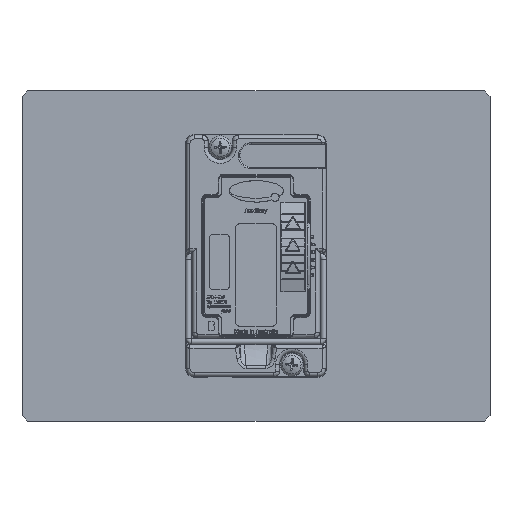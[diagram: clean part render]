
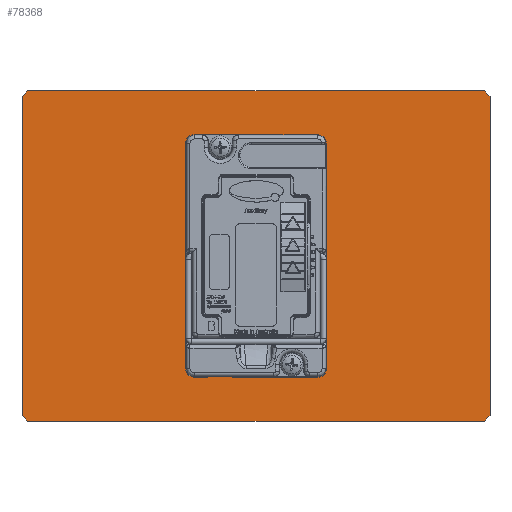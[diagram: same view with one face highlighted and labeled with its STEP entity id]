
A CAD part, top view. The second image highlights one B-rep face of the part: STEP entity #78368.
In plain terms, the highlighted planar face has unit normal (0, 0, 1).
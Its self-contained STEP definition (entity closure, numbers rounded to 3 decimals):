
#465=FACE_BOUND('',#9421,.T.);
#3016=CIRCLE('',#83042,5.);
#3017=CIRCLE('',#83043,5.);
#5313=FACE_OUTER_BOUND('',#9420,.T.);
#9420=EDGE_LOOP('',(#52014,#52015,#52016,#52017,#52018,#52019,#52020,#52021));
#9421=EDGE_LOOP('',(#52022,#52023,#52024,#52025,#52026,#52027,#52028,#52029,
#52030,#52031,#52032,#52033,#52034,#52035,#52036,#52037));
#15597=LINE('',#113585,#23336);
#15598=LINE('',#113587,#23337);
#15599=LINE('',#113589,#23338);
#15600=LINE('',#113591,#23339);
#15601=LINE('',#113593,#23340);
#15602=LINE('',#113595,#23341);
#15603=LINE('',#113597,#23342);
#15604=LINE('',#113598,#23343);
#15605=LINE('',#113601,#23344);
#15606=LINE('',#113603,#23345);
#15607=LINE('',#113605,#23346);
#15608=LINE('',#113609,#23347);
#15609=LINE('',#113611,#23348);
#15610=LINE('',#113613,#23349);
#15611=LINE('',#113615,#23350);
#15612=LINE('',#113617,#23351);
#15613=LINE('',#113619,#23352);
#15614=LINE('',#113621,#23353);
#15615=LINE('',#113625,#23354);
#15616=LINE('',#113627,#23355);
#15617=LINE('',#113629,#23356);
#15618=LINE('',#113630,#23357);
#23336=VECTOR('',#91452,10.);
#23337=VECTOR('',#91453,10.);
#23338=VECTOR('',#91454,10.);
#23339=VECTOR('',#91455,10.);
#23340=VECTOR('',#91456,10.);
#23341=VECTOR('',#91457,10.);
#23342=VECTOR('',#91458,10.);
#23343=VECTOR('',#91459,10.);
#23344=VECTOR('',#91460,10.);
#23345=VECTOR('',#91461,10.);
#23346=VECTOR('',#91462,10.);
#23347=VECTOR('',#91465,10.);
#23348=VECTOR('',#91466,10.);
#23349=VECTOR('',#91467,10.);
#23350=VECTOR('',#91468,10.);
#23351=VECTOR('',#91469,10.);
#23352=VECTOR('',#91470,10.);
#23353=VECTOR('',#91471,10.);
#23354=VECTOR('',#91474,10.);
#23355=VECTOR('',#91475,10.);
#23356=VECTOR('',#91476,10.);
#23357=VECTOR('',#91477,10.);
#31204=VERTEX_POINT('',#113583);
#31205=VERTEX_POINT('',#113584);
#31206=VERTEX_POINT('',#113586);
#31207=VERTEX_POINT('',#113588);
#31208=VERTEX_POINT('',#113590);
#31209=VERTEX_POINT('',#113592);
#31210=VERTEX_POINT('',#113594);
#31211=VERTEX_POINT('',#113596);
#31212=VERTEX_POINT('',#113599);
#31213=VERTEX_POINT('',#113600);
#31214=VERTEX_POINT('',#113602);
#31215=VERTEX_POINT('',#113604);
#31216=VERTEX_POINT('',#113606);
#31217=VERTEX_POINT('',#113608);
#31218=VERTEX_POINT('',#113610);
#31219=VERTEX_POINT('',#113612);
#31220=VERTEX_POINT('',#113614);
#31221=VERTEX_POINT('',#113616);
#31222=VERTEX_POINT('',#113618);
#31223=VERTEX_POINT('',#113620);
#31224=VERTEX_POINT('',#113622);
#31225=VERTEX_POINT('',#113624);
#31226=VERTEX_POINT('',#113626);
#31227=VERTEX_POINT('',#113628);
#39247=EDGE_CURVE('',#31204,#31205,#15597,.T.);
#39248=EDGE_CURVE('',#31204,#31206,#15598,.T.);
#39249=EDGE_CURVE('',#31207,#31206,#15599,.T.);
#39250=EDGE_CURVE('',#31207,#31208,#15600,.T.);
#39251=EDGE_CURVE('',#31209,#31208,#15601,.T.);
#39252=EDGE_CURVE('',#31209,#31210,#15602,.T.);
#39253=EDGE_CURVE('',#31211,#31210,#15603,.T.);
#39254=EDGE_CURVE('',#31211,#31205,#15604,.T.);
#39255=EDGE_CURVE('',#31212,#31213,#15605,.T.);
#39256=EDGE_CURVE('',#31213,#31214,#15606,.T.);
#39257=EDGE_CURVE('',#31214,#31215,#15607,.T.);
#39258=EDGE_CURVE('',#31215,#31216,#3016,.T.);
#39259=EDGE_CURVE('',#31216,#31217,#15608,.T.);
#39260=EDGE_CURVE('',#31217,#31218,#15609,.T.);
#39261=EDGE_CURVE('',#31218,#31219,#15610,.T.);
#39262=EDGE_CURVE('',#31219,#31220,#15611,.T.);
#39263=EDGE_CURVE('',#31220,#31221,#15612,.T.);
#39264=EDGE_CURVE('',#31221,#31222,#15613,.T.);
#39265=EDGE_CURVE('',#31222,#31223,#15614,.T.);
#39266=EDGE_CURVE('',#31223,#31224,#3017,.T.);
#39267=EDGE_CURVE('',#31224,#31225,#15615,.T.);
#39268=EDGE_CURVE('',#31225,#31226,#15616,.T.);
#39269=EDGE_CURVE('',#31226,#31227,#15617,.T.);
#39270=EDGE_CURVE('',#31227,#31212,#15618,.T.);
#52014=ORIENTED_EDGE('',*,*,#39247,.F.);
#52015=ORIENTED_EDGE('',*,*,#39248,.T.);
#52016=ORIENTED_EDGE('',*,*,#39249,.F.);
#52017=ORIENTED_EDGE('',*,*,#39250,.T.);
#52018=ORIENTED_EDGE('',*,*,#39251,.F.);
#52019=ORIENTED_EDGE('',*,*,#39252,.T.);
#52020=ORIENTED_EDGE('',*,*,#39253,.F.);
#52021=ORIENTED_EDGE('',*,*,#39254,.T.);
#52022=ORIENTED_EDGE('',*,*,#39255,.T.);
#52023=ORIENTED_EDGE('',*,*,#39256,.T.);
#52024=ORIENTED_EDGE('',*,*,#39257,.T.);
#52025=ORIENTED_EDGE('',*,*,#39258,.T.);
#52026=ORIENTED_EDGE('',*,*,#39259,.T.);
#52027=ORIENTED_EDGE('',*,*,#39260,.T.);
#52028=ORIENTED_EDGE('',*,*,#39261,.T.);
#52029=ORIENTED_EDGE('',*,*,#39262,.T.);
#52030=ORIENTED_EDGE('',*,*,#39263,.T.);
#52031=ORIENTED_EDGE('',*,*,#39264,.T.);
#52032=ORIENTED_EDGE('',*,*,#39265,.T.);
#52033=ORIENTED_EDGE('',*,*,#39266,.T.);
#52034=ORIENTED_EDGE('',*,*,#39267,.T.);
#52035=ORIENTED_EDGE('',*,*,#39268,.T.);
#52036=ORIENTED_EDGE('',*,*,#39269,.T.);
#52037=ORIENTED_EDGE('',*,*,#39270,.T.);
#71649=PLANE('',#83041);
#78368=ADVANCED_FACE('',(#5313,#465),#71649,.T.);
#83041=AXIS2_PLACEMENT_3D('',#113582,#91450,#91451);
#83042=AXIS2_PLACEMENT_3D('',#113607,#91463,#91464);
#83043=AXIS2_PLACEMENT_3D('',#113623,#91472,#91473);
#91450=DIRECTION('center_axis',(0.,0.,
1.));
#91451=DIRECTION('ref_axis',(1.,0.,0.));
#91452=DIRECTION('',(-0.707,0.707,0.));
#91453=DIRECTION('',(1.,0.,0.));
#91454=DIRECTION('',(-0.707,-0.707,0.));
#91455=DIRECTION('',(0.,1.,0.));
#91456=DIRECTION('',(0.707,-0.707,0.));
#91457=DIRECTION('',(-1.,0.,0.));
#91458=DIRECTION('',(0.707,0.707,0.));
#91459=DIRECTION('',(0.,-1.,0.));
#91460=DIRECTION('',(-0.707,-0.707,0.));
#91461=DIRECTION('',(-1.,0.,0.));
#91462=DIRECTION('',(0.,1.,0.));
#91463=DIRECTION('center_axis',(0.,0.,
1.));
#91464=DIRECTION('ref_axis',(-1.,0.,0.));
#91465=DIRECTION('',(0.,-1.,0.));
#91466=DIRECTION('',(-1.,0.,0.));
#91467=DIRECTION('',(-0.707,0.707,0.));
#91468=DIRECTION('',(0.,1.,0.));
#91469=DIRECTION('',(0.707,0.707,0.));
#91470=DIRECTION('',(1.,0.,0.));
#91471=DIRECTION('',(0.,-1.,0.));
#91472=DIRECTION('center_axis',(0.,0.,
1.));
#91473=DIRECTION('ref_axis',(1.,0.,0.));
#91474=DIRECTION('',(0.,1.,0.));
#91475=DIRECTION('',(1.,0.,0.));
#91476=DIRECTION('',(0.707,-0.707,0.));
#91477=DIRECTION('',(0.,-1.,0.));
#113582=CARTESIAN_POINT('Origin',(0.,0.,
1.6));
#113583=CARTESIAN_POINT('',(-83.,-60.,1.6));
#113584=CARTESIAN_POINT('',(-85.,-58.,1.6));
#113585=CARTESIAN_POINT('',(-77.75,-65.25,1.6));
#113586=CARTESIAN_POINT('',(83.,-60.,1.6));
#113587=CARTESIAN_POINT('',(-85.,-60.,1.6));
#113588=CARTESIAN_POINT('',(85.,-58.,1.6));
#113589=CARTESIAN_POINT('',(77.75,-65.25,1.6));
#113590=CARTESIAN_POINT('',(85.,58.,1.6));
#113591=CARTESIAN_POINT('',(85.,-60.,1.6));
#113592=CARTESIAN_POINT('',(83.,60.,1.6));
#113593=CARTESIAN_POINT('',(77.75,65.25,1.6));
#113594=CARTESIAN_POINT('',(-83.,60.,1.6));
#113595=CARTESIAN_POINT('',(85.,60.,1.6));
#113596=CARTESIAN_POINT('',(-85.,58.,1.6));
#113597=CARTESIAN_POINT('',(-77.75,65.25,1.6));
#113598=CARTESIAN_POINT('',(-85.,60.,1.6));
#113599=CARTESIAN_POINT('',(24.5,-40.8,1.6));
#113600=CARTESIAN_POINT('',(22.3,-43.,1.6));
#113601=CARTESIAN_POINT('',(28.575,-36.725,1.6));
#113602=CARTESIAN_POINT('',(-8.,-43.,1.6));
#113603=CARTESIAN_POINT('',(24.5,-43.,1.6));
#113604=CARTESIAN_POINT('',(-8.,-39.5,1.6));
#113605=CARTESIAN_POINT('',(-8.,-19.75,1.6));
#113606=CARTESIAN_POINT('',(-18.,-39.5,1.6));
#113607=CARTESIAN_POINT('Origin',(-13.,-39.5,1.6));
#113608=CARTESIAN_POINT('',(-18.,-43.,1.6));
#113609=CARTESIAN_POINT('',(-18.,-21.5,1.6));
#113610=CARTESIAN_POINT('',(-22.3,-43.,1.6));
#113611=CARTESIAN_POINT('',(24.5,-43.,1.6));
#113612=CARTESIAN_POINT('',(-24.5,-40.8,1.6));
#113613=CARTESIAN_POINT('',(-27.475,-37.825,1.6));
#113614=CARTESIAN_POINT('',(-24.5,40.8,1.6));
#113615=CARTESIAN_POINT('',(-24.5,-43.,1.6));
#113616=CARTESIAN_POINT('',(-22.3,43.,1.6));
#113617=CARTESIAN_POINT('',(-28.575,36.725,1.6));
#113618=CARTESIAN_POINT('',(8.,43.,1.6));
#113619=CARTESIAN_POINT('',(-24.5,43.,1.6));
#113620=CARTESIAN_POINT('',(8.,39.5,1.6));
#113621=CARTESIAN_POINT('',(8.,19.75,1.6));
#113622=CARTESIAN_POINT('',(18.,39.5,1.6));
#113623=CARTESIAN_POINT('Origin',(13.,39.5,1.6));
#113624=CARTESIAN_POINT('',(18.,43.,1.6));
#113625=CARTESIAN_POINT('',(18.,21.5,1.6));
#113626=CARTESIAN_POINT('',(22.3,43.,1.6));
#113627=CARTESIAN_POINT('',(-24.5,43.,1.6));
#113628=CARTESIAN_POINT('',(24.5,40.8,1.6));
#113629=CARTESIAN_POINT('',(27.475,37.825,1.6));
#113630=CARTESIAN_POINT('',(24.5,43.,1.6));
